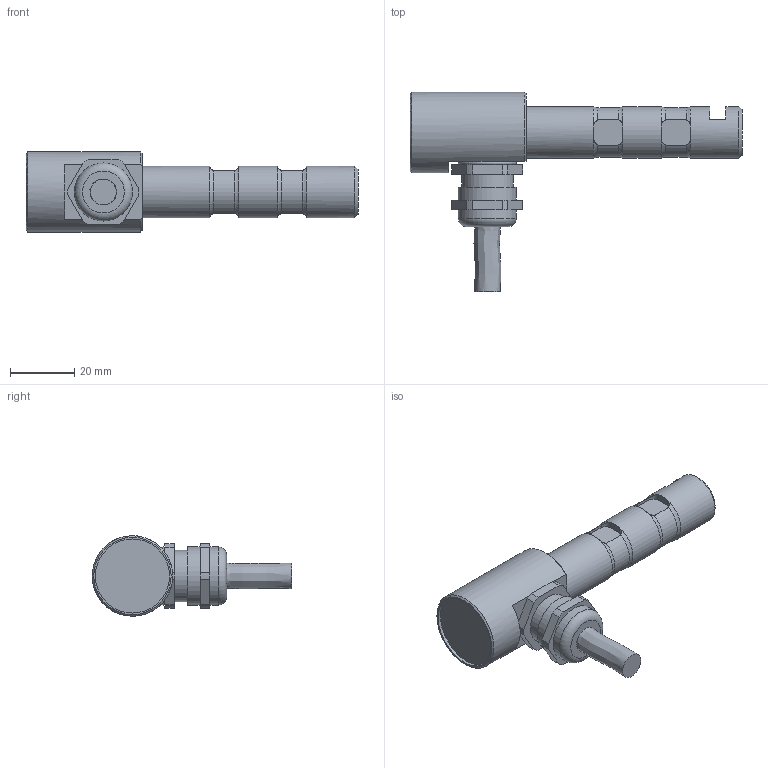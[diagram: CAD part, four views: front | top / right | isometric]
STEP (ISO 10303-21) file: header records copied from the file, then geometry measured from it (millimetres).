
FILE_DESCRIPTION(/* description */ ('Alibre Inc.'),/* implementation_level */ '2;1');
FILE_NAME(/* name */ 'export-31B24C90-2C3A-4DAB-A46D-1FB7C4EEC9ED',/* time_stamp */ '2021-02-02T16:10:51+01:00',/* author */ (''),/* organization */ (''),/* preprocessor_version */ 'ST-DEVELOPER v17',/* originating_system */ 'Alibre',/* authorisation */ '');
FILE_SCHEMA (('AUTOMOTIVE_DESIGN'));
Length unit declared in the file: centimetre
Bounding box: 103 x 61.95 x 25 mm (x, y, z)
Volume: 32999.6 mm3; surface area: 11610.7 mm2
Topology: 4 solids, 4 shells, 109 faces, 260 edges, 166 vertices
Faces by surface type: plane 51, cylinder 43, torus 10, cone 4, bspline 1
Full cylindrical faces by diameter (mm): 8 x1, 14.5 x1, 16 x5, 18 x2, 23 x1, 25 x1
Entity records: 3264 total; most frequent: CARTESIAN_POINT 966, ORIENTED_EDGE 478, DIRECTION 361, EDGE_CURVE 239, VERTEX_POINT 162, AXIS2_PLACEMENT_3D 150, FACE_BOUND 135, EDGE_LOOP 134
